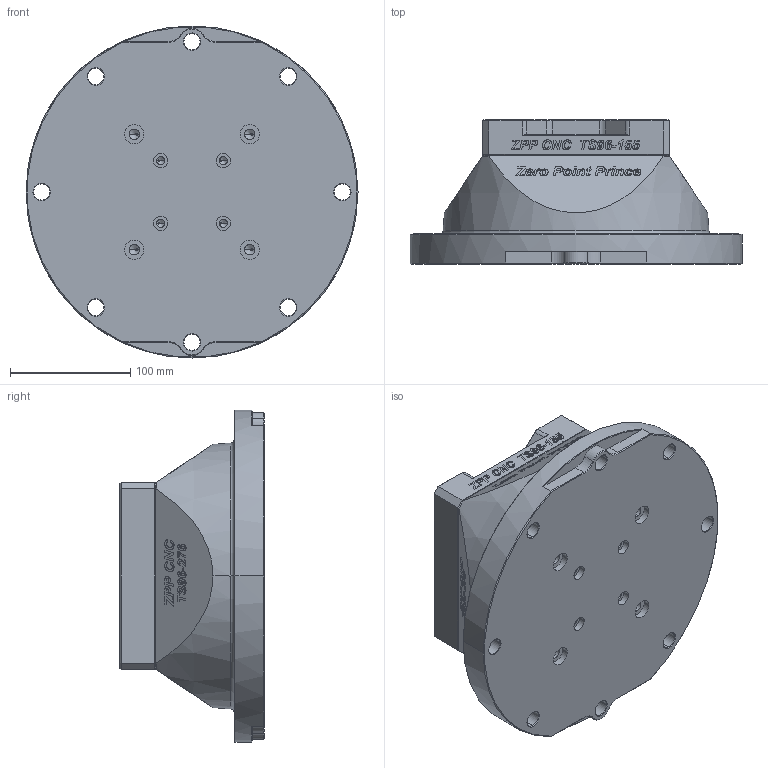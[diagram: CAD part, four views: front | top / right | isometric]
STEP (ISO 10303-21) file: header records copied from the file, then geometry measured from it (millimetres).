
FILE_DESCRIPTION((''),'2;1');
FILE_NAME('TS96-276_120_ASM','2025-08-08T11:04:15',('XF'),(''),'CREO PARAMETRIC BY PTC INC, 2023073','CREO PARAMETRIC BY PTC INC, 2023073','');
FILE_SCHEMA(('CONFIG_CONTROL_DESIGN'));
Length unit declared in the file: millimetre
Products named in the file (4): TS96-155_1; TS96-276_Z_ASM_1_ASM; TS96-276; TS96-276_120_ASM
Assembly tree (3 placements, depth 3):
  TS96-276_120_ASM
    TS96-276_Z_ASM_1_ASM
      TS96-155_1
    TS96-276
Bounding box: 276 x 120 x 276 mm (x, y, z)
Volume: 4199011.8 mm3; surface area: 271982.1 mm2
Topology: 2 solids, 6 shells, 2184 faces, 5994 edges, 3958 vertices
Faces by surface type: extrusion 1074, plane 718, cylinder 198, cone 184, torus 10
Entity records: 73632 total; most frequent: CARTESIAN_POINT 21761, ORIENTED_EDGE 11892, DIRECTION 7794, EDGE_CURVE 5954, VECTOR 4122, VERTEX_POINT 3958, B_SPLINE_CURVE_WITH_KNOTS 3264, LINE 3048
